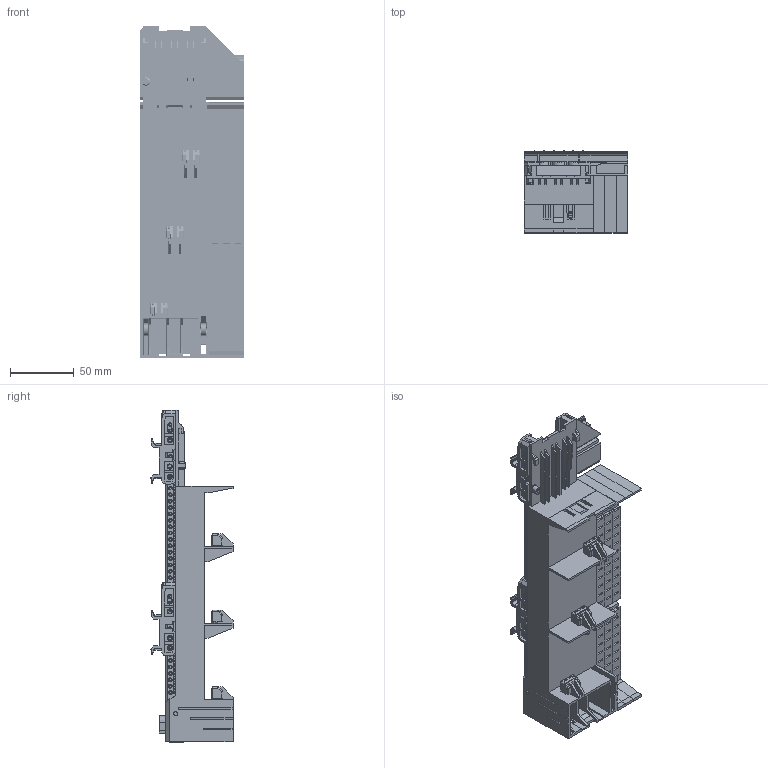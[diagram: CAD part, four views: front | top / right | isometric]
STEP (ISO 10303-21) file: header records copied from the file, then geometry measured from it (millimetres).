
FILE_DESCRIPTION (( 'STEP AP203' ), '1' );
FILE_NAME ('55338.STEP', '2021-08-18T07:03:41', ( '' ), ( '' ), 'SwSTEP 2.0', 'SolidWorks 2017', '' );
FILE_SCHEMA (( 'CONFIG_CONTROL_DESIGN' ));
Products named in the file (2): 55338
Bounding box: 81.05 x 64.3 x 260.2 mm (x, y, z)
Volume: 423934.6 mm3; surface area: 193230 mm2
Topology: 12 solids, 19 shells, 4274 faces, 12071 edges, 8065 vertices
Faces by surface type: plane 3074, cylinder 847, cone 234, bspline 116, torus 3
Full cylindrical faces by diameter (mm): 1.988 x176, 2.584 x1, 2.982 x14, 3.479 x8, 5 x36, 5.169 x2, 5.964 x11
Entity records: 189094 total; most frequent: CARTESIAN_POINT 85113, ORIENTED_EDGE 22790, DIRECTION 18630, EDGE_CURVE 11395, VERTEX_POINT 7847, LINE 7758, VECTOR 7758, AXIS2_PLACEMENT_3D 5436
